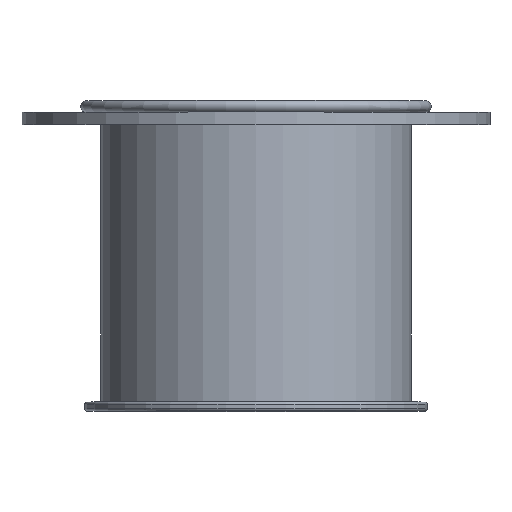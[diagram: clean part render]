
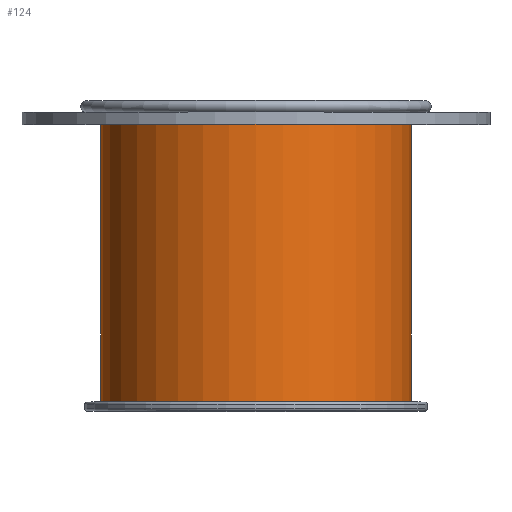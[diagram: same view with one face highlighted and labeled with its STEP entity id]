
A CAD part, top view. The second image highlights one B-rep face of the part: STEP entity #124.
In plain terms, the highlighted cylindrical face has radius 50.8 mm (diameter 101.6 mm), a full revolution.
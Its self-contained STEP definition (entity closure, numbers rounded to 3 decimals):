
#108=CYLINDRICAL_SURFACE('',#460,50.8);
#124=ADVANCED_FACE('',(#167,#168),#108,.T.);
#167=FACE_BOUND('',#231,.T.);
#168=FACE_BOUND('',#232,.T.);
#231=EDGE_LOOP('',(#295));
#232=EDGE_LOOP('',(#296));
#295=ORIENTED_EDGE('',*,*,#389,.T.);
#296=ORIENTED_EDGE('',*,*,#388,.F.);
#356=VERTEX_POINT('',#648);
#357=VERTEX_POINT('',#651);
#388=EDGE_CURVE('',#356,#356,#420,.T.);
#389=EDGE_CURVE('',#357,#357,#421,.T.);
#420=CIRCLE('',#457,50.8);
#421=CIRCLE('',#459,50.8);
#457=AXIS2_PLACEMENT_3D('',#647,#530,#531);
#459=AXIS2_PLACEMENT_3D('',#650,#534,#535);
#460=AXIS2_PLACEMENT_3D('',#652,#536,#537);
#530=DIRECTION('',(0.,1.,0.));
#531=DIRECTION('',(1.,0.,0.));
#534=DIRECTION('',(0.,1.,0.));
#535=DIRECTION('',(1.,0.,0.));
#536=DIRECTION('',(0.,1.,0.));
#537=DIRECTION('',(1.,0.,0.));
#647=CARTESIAN_POINT('',(0.,99.2,0.));
#648=CARTESIAN_POINT('',(50.8,99.2,0.));
#650=CARTESIAN_POINT('',(0.,3.,0.));
#651=CARTESIAN_POINT('',(50.8,3.,0.));
#652=CARTESIAN_POINT('',(0.,-192.076,0.));
